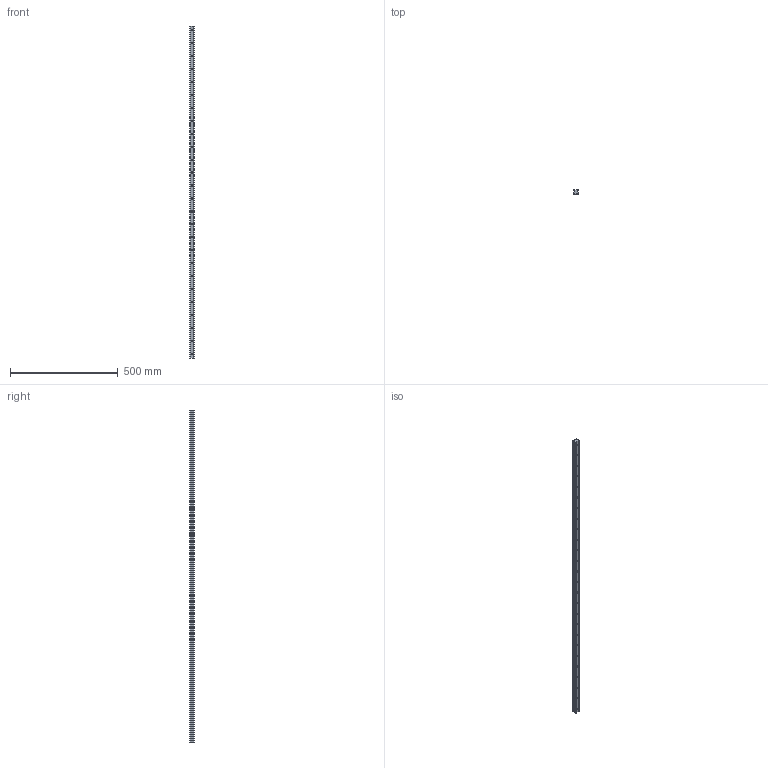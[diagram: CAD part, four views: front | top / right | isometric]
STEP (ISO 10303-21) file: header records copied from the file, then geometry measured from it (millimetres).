
FILE_DESCRIPTION (( 'STEP AP203' ), '1' );
FILE_NAME ('L1016.BRF25-1540.step', '2019-06-13T08:38:40', ( '' ), ( '' ), 'SwSTEP 2.0', 'SolidWorks 2017', '' );
FILE_SCHEMA (( 'CONFIG_CONTROL_DESIGN' ));
Length unit declared in the file: millimetre
Products named in the file (1): L1016.BRF25-1540
Bounding box: 23 x 19.2 x 1540 mm (x, y, z)
Volume: 587913.3 mm3; surface area: 142133.4 mm2
Topology: 1 solids, 1 shells, 208 faces, 488 edges, 282 vertices
Faces by surface type: cylinder 108, cone 52, plane 48
Entity records: 5685 total; most frequent: DIRECTION 1070, CARTESIAN_POINT 927, ORIENTED_EDGE 872, EDGE_CURVE 436, AXIS2_PLACEMENT_3D 425, VERTEX_POINT 282, EDGE_LOOP 260, VECTOR 220
